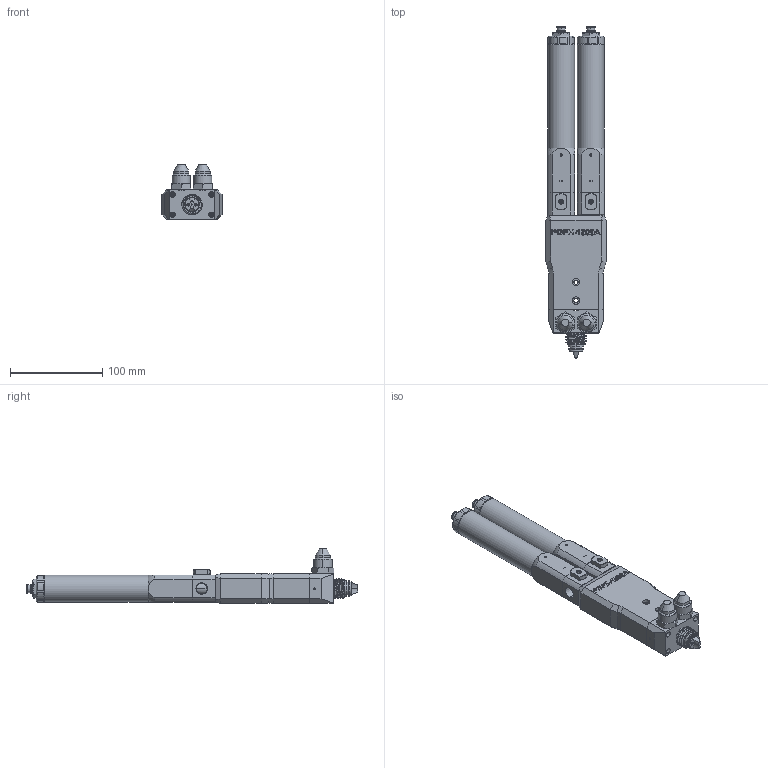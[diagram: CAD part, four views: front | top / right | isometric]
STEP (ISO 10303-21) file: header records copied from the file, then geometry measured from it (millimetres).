
FILE_DESCRIPTION (( 'STEP AP214' ), '1' );
FILE_NAME ('PDP-1500-150CA.STEP', '2024-10-11T12:28:08', ( '' ), ( '' ), 'SwSTEP 2.0', 'SolidWorks 2024', '' );
FILE_SCHEMA (( 'AUTOMOTIVE_DESIGN' ));
Length unit declared in the file: millimetre
Products named in the file (1): PDP-1500-150CA
Bounding box: 65 x 359 x 59.3 mm (x, y, z)
Volume: 522138.5 mm3; surface area: 122861 mm2
Topology: 12 solids, 12 shells, 1515 faces, 3826 edges, 2438 vertices
Faces by surface type: plane 756, cylinder 414, cone 302, bspline 23, torus 12, sphere 8
Full cylindrical faces by diameter (mm): 29 x2
Entity records: 65443 total; most frequent: CARTESIAN_POINT 29305, ORIENTED_EDGE 7596, DIRECTION 7310, EDGE_CURVE 3798, AXIS2_PLACEMENT_3D 2611, VERTEX_POINT 2438, VECTOR 2088, LINE 2088
